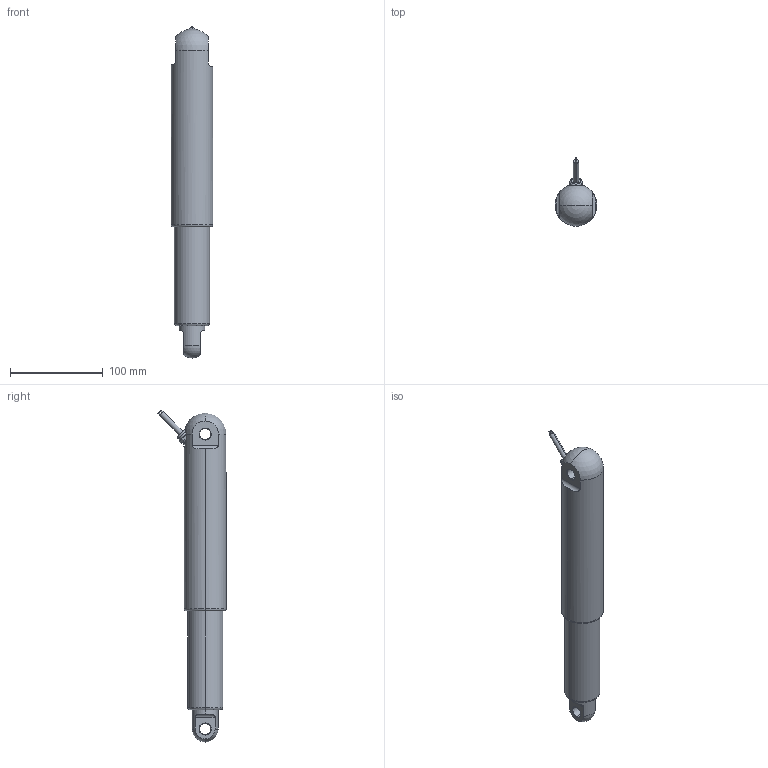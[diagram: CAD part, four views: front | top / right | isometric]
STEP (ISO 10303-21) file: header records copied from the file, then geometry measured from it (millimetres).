
FILE_DESCRIPTION((''),'2;1');
FILE_NAME('ST45-50MM-268','2016-12-15T',('Aklek'),(''),'PRO/ENGINEER BY PARAMETRIC TECHNOLOGY CORPORATION, 2010100','PRO/ENGINEER BY PARAMETRIC TECHNOLOGY CORPORATION, 2010100','');
FILE_SCHEMA(('CONFIG_CONTROL_DESIGN'));
Length unit declared in the file: millimetre
Products named in the file (1): ST45-50MM-268
Bounding box: 45 x 73.43 x 357.93 mm (x, y, z)
Volume: 451337.1 mm3; surface area: 50436.9 mm2
Topology: 1 solids, 2 shells, 93 faces, 229 edges, 146 vertices
Faces by surface type: cylinder 42, plane 33, cone 8, torus 6, sphere 4
Entity records: 2896 total; most frequent: CARTESIAN_POINT 582, DIRECTION 514, ORIENTED_EDGE 450, EDGE_CURVE 225, AXIS2_PLACEMENT_3D 208, VERTEX_POINT 146, CIRCLE 115, EDGE_LOOP 107
